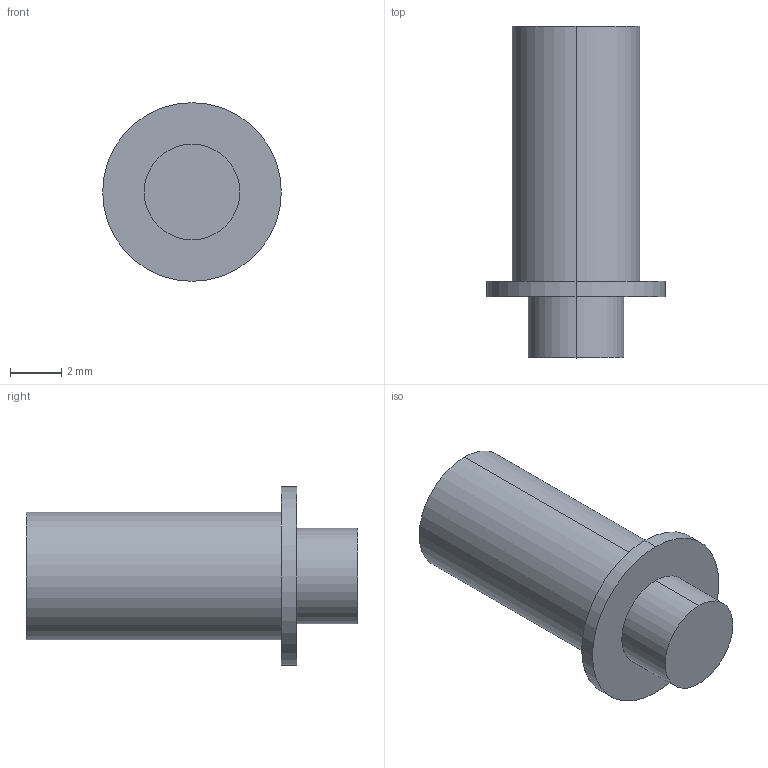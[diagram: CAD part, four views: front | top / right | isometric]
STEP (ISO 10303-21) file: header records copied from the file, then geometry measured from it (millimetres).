
FILE_DESCRIPTION (( 'STEP AP203' ), '1' );
FILE_NAME ('D10010859_Federpuffer Ø5 Frontspalt 3_01.step', '2025-04-14T12:58:30', ( '' ), ( '' ), 'SwSTEP 2.0', 'SolidWorks 2023', '' );
FILE_SCHEMA (( 'CONFIG_CONTROL_DESIGN' ));
Length unit declared in the file: millimetre
Products named in the file (1): D10010859_Federpuffer Ø5 Frontspalt 3_01
Bounding box: 7 x 13 x 7 mm (x, y, z)
Volume: 245.9 mm3; surface area: 275.5 mm2
Topology: 1 solids, 1 shells, 10 faces, 18 edges, 12 vertices
Faces by surface type: cylinder 6, plane 4
Entity records: 331 total; most frequent: DIRECTION 52, CARTESIAN_POINT 41, ORIENTED_EDGE 36, AXIS2_PLACEMENT_3D 23, EDGE_CURVE 18, CIRCLE 12, VERTEX_POINT 12, EDGE_LOOP 12
